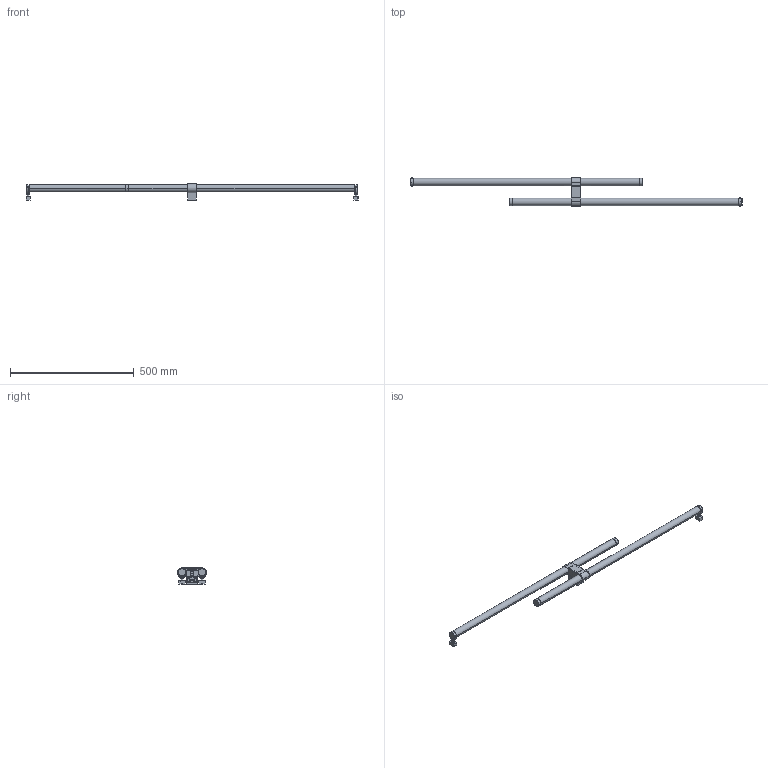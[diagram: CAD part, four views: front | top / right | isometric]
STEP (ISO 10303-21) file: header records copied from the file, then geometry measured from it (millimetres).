
FILE_DESCRIPTION (( 'STEP AP203' ), '1' );
FILE_NAME ('APPARA02LAXXXXX-PAG 189 CATALOGO 2025-PER 3D.STEP', '2026-07-08T10:26:42', ( '' ), ( '' ), 'SwSTEP 2.0', 'SolidWorks 2026', '' );
FILE_SCHEMA (( 'CONFIG_CONTROL_DESIGN' ));
Length unit declared in the file: millimetre
Products named in the file (1): APPARA02LAXXXXX-PAG 189 CATALOGO 2025-PER 3D
Bounding box: 1340.4 x 116.28 x 65.51 mm (x, y, z)
Surface area: 214376.6 mm2 (no closed solid volume)
Topology: 0 solids, 36 shells, 231 faces, 976 edges, 760 vertices
Faces by surface type: cylinder 92, torus 68, plane 59, bspline 8, cone 4
Entity records: 12192 total; most frequent: CARTESIAN_POINT 4076, DIRECTION 1886, ORIENTED_EDGE 1286, EDGE_CURVE 976, VERTEX_POINT 760, AXIS2_PLACEMENT_3D 734, CIRCLE 510, VECTOR 418
